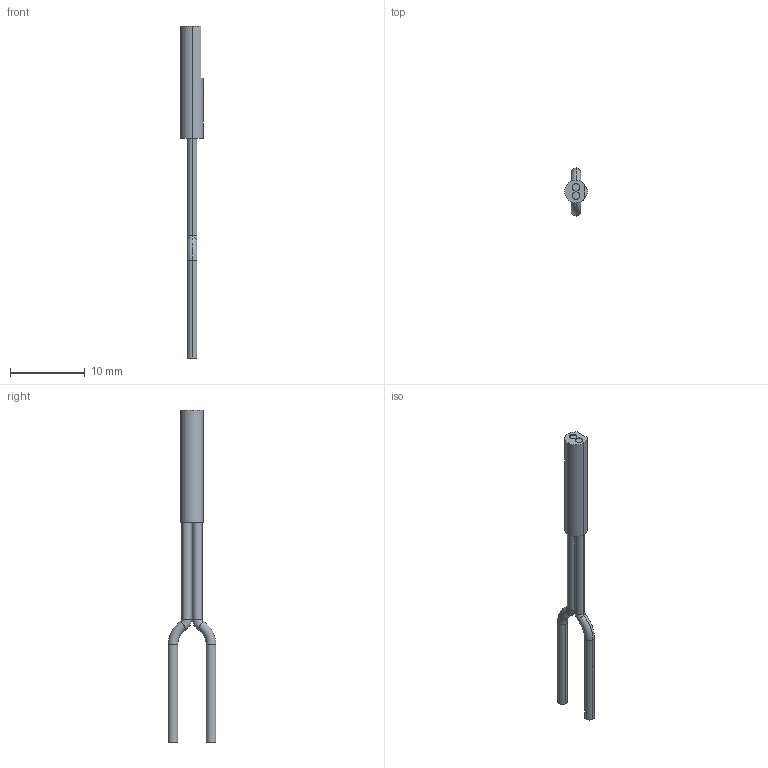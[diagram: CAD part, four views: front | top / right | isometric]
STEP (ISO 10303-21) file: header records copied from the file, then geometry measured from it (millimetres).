
FILE_DESCRIPTION (( 'STEP AP203' ), '1' );
FILE_NAME ('FD-WS8.STEP', '2005-09-04T10:28:05', ( '川島良英' ), ( ' ' ), 'SwSTEP 2.0', 'SolidWorks 2004251', '' );
FILE_SCHEMA (( 'CONFIG_CONTROL_DESIGN' ));
Length unit declared in the file: millimetre
Products named in the file (1): FD-WS8
Bounding box: 3 x 6.4 x 44.37 mm (x, y, z)
Volume: 183 mm3; surface area: 400.4 mm2
Topology: 1 solids, 1 shells, 30 faces, 60 edges, 36 vertices
Faces by surface type: cylinder 14, torus 8, plane 8
Entity records: 867 total; most frequent: DIRECTION 164, CARTESIAN_POINT 127, ORIENTED_EDGE 120, AXIS2_PLACEMENT_3D 73, EDGE_CURVE 60, CIRCLE 42, VERTEX_POINT 36, EDGE_LOOP 34
